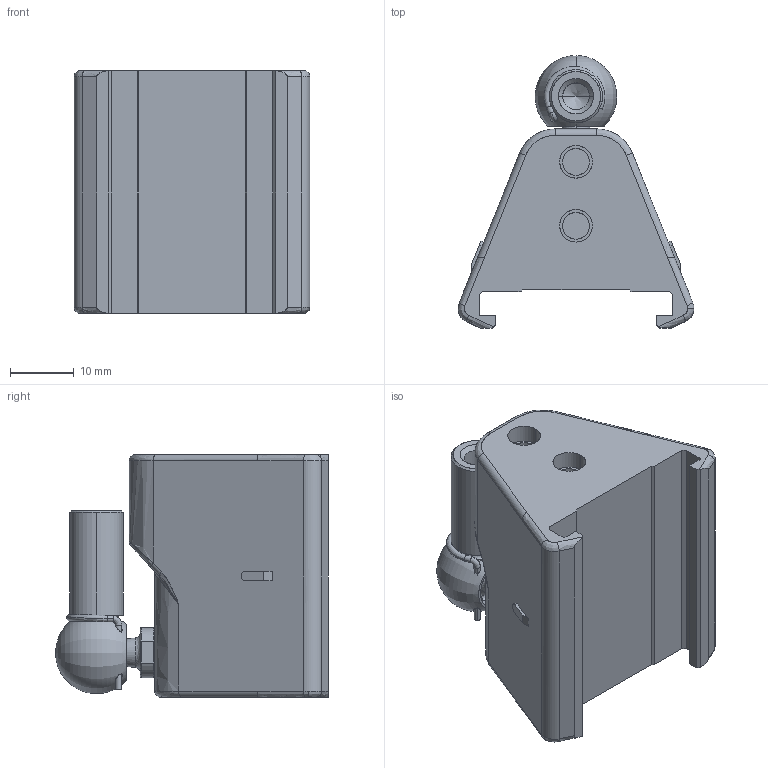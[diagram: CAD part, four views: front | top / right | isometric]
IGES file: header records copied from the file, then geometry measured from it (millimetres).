
Start section: SolidWorks IGES file using analytic representation for surfaces
Global section: file name: C:\Users\diego.babaglioni\Desktop\Cursori a slitta WPP_WPA\PCUR212\PCUR212.IGS; native system: SolidWorks 2019; preprocessor: SolidWorks 2019; author: diego.babaglioni; date: 190508.093434; units: millimetre
Bounding box: 36.91 x 42.68 x 38 mm (x, y, z)
Surface area: 9589.8 mm2 (no closed solid volume)
Topology: 0 solids, 0 shells, 203 faces, 2320 edges, 2313 vertices
Faces by surface type: bspline 119, revolution 84
